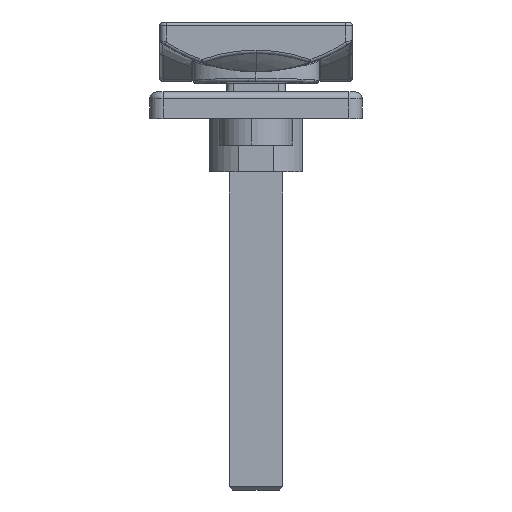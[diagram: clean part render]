
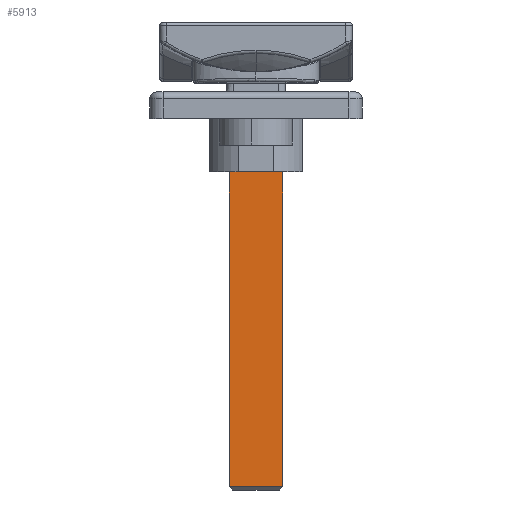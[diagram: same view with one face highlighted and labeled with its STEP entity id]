
A CAD part, front view. The second image highlights one B-rep face of the part: STEP entity #5913.
In plain terms, the highlighted planar face has unit normal (0, -1, 0) as drawn and (1, 0, 0) by its records, which use the part's own axes.
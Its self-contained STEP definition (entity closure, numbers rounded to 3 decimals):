
#308 = PLANE ( 'NONE',  #9194 ) ;
#375 = ORIENTED_EDGE ( 'NONE', *, *, #3752, .F. ) ;
#434 = ORIENTED_EDGE ( 'NONE', *, *, #10118, .F. ) ;
#513 = EDGE_CURVE ( 'NONE', #4667, #1464, #8266, .T. ) ;
#591 = AXIS2_PLACEMENT_3D ( 'NONE', #1769, #4997, #1880 ) ;
#644 = CIRCLE ( 'NONE', #7844, 2.25 ) ;
#966 = VERTEX_POINT ( 'NONE', #9786 ) ;
#1046 = EDGE_LOOP ( 'NONE', ( #4511, #8664, #375, #5972 ) ) ;
#1107 = VERTEX_POINT ( 'NONE', #8278 ) ;
#1171 = CARTESIAN_POINT ( 'NONE',  ( 4., 4., 56. ) ) ;
#1425 = DIRECTION ( 'NONE',  ( 0., 0., -1. ) ) ;
#1464 = VERTEX_POINT ( 'NONE', #3896 ) ;
#1571 = CARTESIAN_POINT ( 'NONE',  ( 4., 0., 4. ) ) ;
#1769 = CARTESIAN_POINT ( 'NONE',  ( 4., 0., 4. ) ) ;
#1880 = DIRECTION ( 'NONE',  ( 0., 0., -1. ) ) ;
#2026 = CARTESIAN_POINT ( 'NONE',  ( 4., 0., 1.75 ) ) ;
#2117 = EDGE_LOOP ( 'NONE', ( #434, #2691 ) ) ;
#2487 = EDGE_CURVE ( 'NONE', #9405, #966, #10153, .T. ) ;
#2604 = EDGE_CURVE ( 'NONE', #1107, #7025, #644, .T. ) ;
#2691 = ORIENTED_EDGE ( 'NONE', *, *, #2604, .F. ) ;
#3506 = CARTESIAN_POINT ( 'NONE',  ( 4., 4., 56. ) ) ;
#3752 = EDGE_CURVE ( 'NONE', #4667, #966, #5027, .T. ) ;
#3767 = CARTESIAN_POINT ( 'NONE',  ( 4., -4., 0.5 ) ) ;
#3896 = CARTESIAN_POINT ( 'NONE',  ( 4., -4., 55.5 ) ) ;
#4085 = DIRECTION ( 'NONE',  ( 0., -1., 0. ) ) ;
#4296 = FACE_BOUND ( 'NONE', #2117, .T. ) ;
#4511 = ORIENTED_EDGE ( 'NONE', *, *, #7614, .T. ) ;
#4667 = VERTEX_POINT ( 'NONE', #5989 ) ;
#4997 = DIRECTION ( 'NONE',  ( 1., 0., 0. ) ) ;
#5027 = LINE ( 'NONE', #1171, #7381 ) ;
#5135 = CARTESIAN_POINT ( 'NONE',  ( 4., 4., 0.5 ) ) ;
#5863 = DIRECTION ( 'NONE',  ( 0., -1., 0. ) ) ;
#5913 = ADVANCED_FACE ( 'NONE', ( #4296, #7502 ), #308, .F. ) ;
#5916 = CARTESIAN_POINT ( 'NONE',  ( 4., -4., 55.5 ) ) ;
#5972 = ORIENTED_EDGE ( 'NONE', *, *, #513, .T. ) ;
#5989 = CARTESIAN_POINT ( 'NONE',  ( 4., 4., 55.5 ) ) ;
#6791 = DIRECTION ( 'NONE',  ( 0., 1., 0. ) ) ;
#6999 = VECTOR ( 'NONE', #6791, 1000. ) ;
#7025 = VERTEX_POINT ( 'NONE', #2026 ) ;
#7238 = VECTOR ( 'NONE', #5863, 1000. ) ;
#7295 = VECTOR ( 'NONE', #10231, 1000. ) ;
#7381 = VECTOR ( 'NONE', #9112, 1000. ) ;
#7502 = FACE_OUTER_BOUND ( 'NONE', #1046, .T. ) ;
#7614 = EDGE_CURVE ( 'NONE', #1464, #9405, #7813, .T. ) ;
#7664 = CARTESIAN_POINT ( 'NONE',  ( 4., -4., 56. ) ) ;
#7813 = LINE ( 'NONE', #7664, #7295 ) ;
#7844 = AXIS2_PLACEMENT_3D ( 'NONE', #1571, #10300, #1425 ) ;
#8075 = DIRECTION ( 'NONE',  ( -1., 0., 0. ) ) ;
#8266 = LINE ( 'NONE', #5916, #7238 ) ;
#8278 = CARTESIAN_POINT ( 'NONE',  ( 4., 0., 6.25 ) ) ;
#8664 = ORIENTED_EDGE ( 'NONE', *, *, #2487, .T. ) ;
#8804 = CIRCLE ( 'NONE', #591, 2.25 ) ;
#9112 = DIRECTION ( 'NONE',  ( 0., 0., -1. ) ) ;
#9194 = AXIS2_PLACEMENT_3D ( 'NONE', #3506, #8075, #4085 ) ;
#9405 = VERTEX_POINT ( 'NONE', #3767 ) ;
#9786 = CARTESIAN_POINT ( 'NONE',  ( 4., 4., 0.5 ) ) ;
#10118 = EDGE_CURVE ( 'NONE', #7025, #1107, #8804, .T. ) ;
#10153 = LINE ( 'NONE', #5135, #6999 ) ;
#10231 = DIRECTION ( 'NONE',  ( 0., 0., -1. ) ) ;
#10300 = DIRECTION ( 'NONE',  ( 1., 0., 0. ) ) ;
